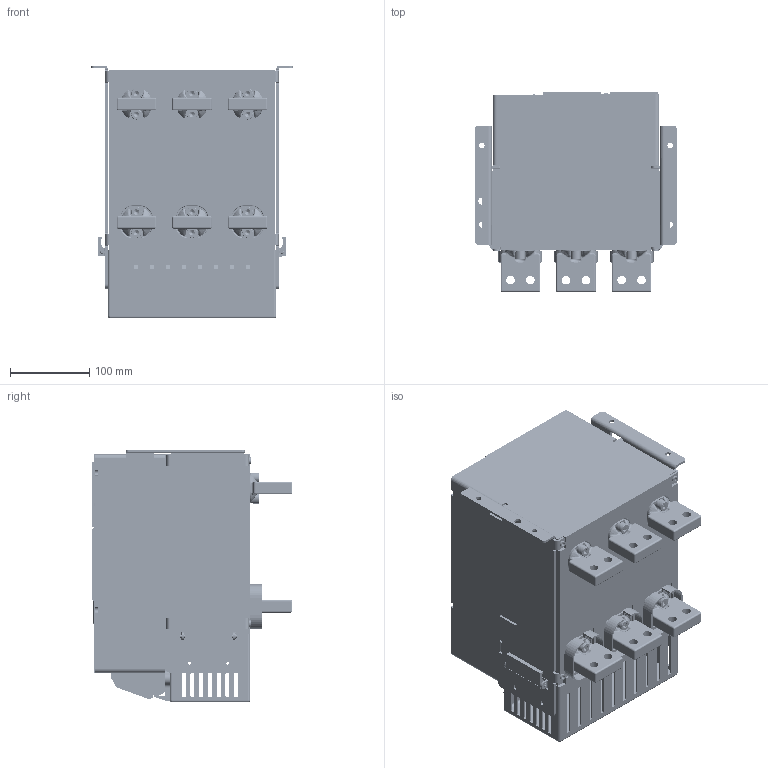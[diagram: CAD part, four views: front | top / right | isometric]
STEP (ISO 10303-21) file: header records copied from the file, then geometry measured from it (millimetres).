
FILE_DESCRIPTION((''),'2;1');
FILE_NAME('NA8-1600-3P-F-1000A-1600A-H_ASM','2021-11-06T09:45:21',('lcc'),(''),'CREO PARAMETRIC BY PTC INC, 2020044','CREO PARAMETRIC BY PTC INC, 2020044','');
FILE_SCHEMA(('CONFIG_CONTROL_DESIGN','SHAPE_APPEARANCE_LAYERS_GROUPS'));
Products named in the file (52): 1600-JIZUO-3P; 1600-DIBAN-3P; 8ZTD-050-625; 8123A0726001; 8206A0312004; GBT896-3; 8210A0312014; 5ZTD-050-261_ASM; 8ZTD-050-626; 5ZTD-050-262_ASM; 8ZTD-300-472; 8ZTD-060-205; 8ZTD-321-089; 8ZTD-253-775; 8ZTD-253-776; 8ZTD-281-1000; 8282A0820014; 8ZTD-253-577; 8ZTD-235-356; 5ZTD-302-018_ASM; 8ZTD-064-138; 8ZTD-024-689; 8ZTD-860-511; 1600-DUANZI-CTS_ASM; 8-040-432; 8-004-030; 8-860-KZQ; 8-320-094; 8ZTD_210_353; 5ZTD_253_424_1; 5ZTD_253_424_2; 5ZTD_253_424_3; 5ZTD_253_424_4; 5ZTD_253_424_5; 5ZTD_253_424_6; 5ZTD_253_424_7; 5ZTD_253_424_8; 5ZTD_253_424_9; 5ZTD_253_424_10; 5ZTD_253_424_ASM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
Assembly tree (91 placements, depth 4):
  NA8-1600-3P-F-1000A-1600A-H_ASM
    1600-JIZUO-3P
    1600-DIBAN-3P
    5ZTD-050-261_ASM
      8ZTD-050-625
      8123A0726001
      8206A0312004
      GBT896-3  x2
      8210A0312014  x2
    5ZTD-050-262_ASM
      8ZTD-050-626
      8123A0726001
      8206A0312004
      GBT896-3  x2
      8210A0312014  x2
    8ZTD-300-472
    5ZTD-302-018_ASM
      8ZTD-060-205
      8ZTD-321-089
      8ZTD-253-775
      8ZTD-253-776
      8ZTD-281-1000  x2
      8282A0820014
      8ZTD-253-577
      8ZTD-235-356
    1600-DUANZI-CTS_ASM
      8ZTD-064-138
      8ZTD-024-689  x14
      8ZTD-860-511
    8-040-432
    8-004-030
    8-860-KZQ
    8-320-094
    5ZTD-253-442_ASM
      5ZTD_253_424_ASM
        8ZTD_210_353
        5ZTD_253_424_1
        5ZTD_253_424_2
        5ZTD_253_424_3
        5ZTD_253_424_4
        5ZTD_253_424_5
        5ZTD_253_424_6
        5ZTD_253_424_7
        5ZTD_253_424_8
        5ZTD_253_424_9
        5ZTD_253_424_10
      8272A0314002
      8ZTD-206-1571
      GBT93_4
      GBT-6170-M4
      8288A0820012
    8580A0412004  x6
    8ZTD-210-346  x3
    QNKJ0200012_ASM  x12
      GBT70_1-M8X20
      GBT93-8
Bounding box: 254 x 252.18 x 318.5 mm (x, y, z)
Volume: 6654784.6 mm3; surface area: 1420890 mm2
Topology: 95 solids, 164 shells, 9490 faces, 25703 edges, 16784 vertices
Faces by surface type: plane 6345, cylinder 1651, extrusion 790, bspline 312, cone 239, torus 104, sphere 49
Entity records: 291950 total; most frequent: CARTESIAN_POINT 72827, ORIENTED_EDGE 34260, DIRECTION 30190, EDGE_CURVE 17367, PRESENTATION_STYLE_ASSIGNMENT 17337, STYLED_ITEM 17217, CURVE_STYLE 15965, VECTOR 13678
